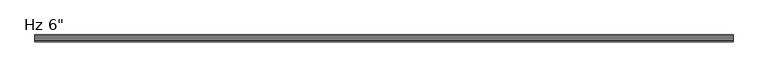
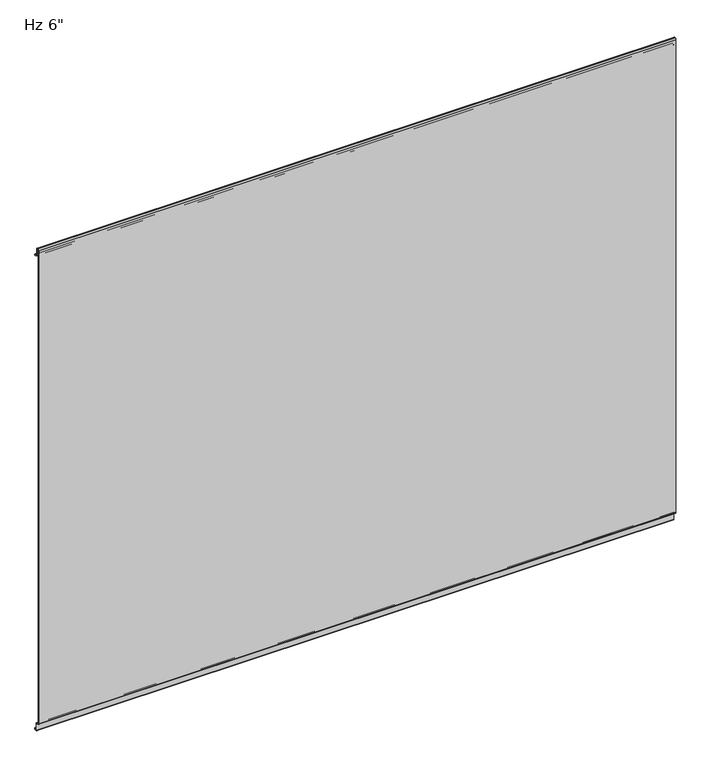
"""IFC4 building model written with IfcOpenShell, lengths in millimetres: plate geometry."""

from ifc_helpers import new_model, si_unit, frame, origin, place, context, project, spatial, polyline, circle_curve, source, transform, mapped, element, save
from ifc_brep_helpers import plane_surface, cylinder_surface, revolved_surface, advanced_brep


def plate_ad2471ad(model_context):
    return source(origin(), model_context, "Body", "AdvancedBrep", [
        advanced_brep(
        [(-730.0, -149.4223811, 3.8501063), (-730.0, -147.1308685, 3.8501063), (-730.0, -143.1535232, -0.1272391), (-730.0, -143.1535232, -15.7237514), (-730.0, -142.565666, -16.3116086), (-730.0, -139.4941346, -16.3116086), (-730.0, -138.9062635, -15.7237374), (-730.0, -138.9062635, -13.3687064), (-730.0, -137.9062599, -13.3687064), (-730.0, -137.9062599, -15.7237419), (-730.0, -139.4941364, -17.3116185), (-730.0, -142.5656851, -17.3116185), (-730.0, -144.1535616, -15.7237419), (-730.0, -144.1535616, -0.1273159), (-730.0, -147.1308302, 2.8499526), (-730.0, -149.422714, 2.8499526), (-730.0, -152.3999825, 5.8272211), (-730.0, -152.4, 1150.8100652), (-730.0, -149.4227315, 1153.7873337), (-730.0, -148.3806329, 1153.7873337), (-730.0, -145.4033644, 1150.8100652), (-730.0, -145.4033644, 1136.6216801), (-730.0, -143.8154878, 1135.0338036), (-730.0, -139.4950697, 1135.0338036), (-730.0, -137.9066023, 1133.3929042), (-730.0, -137.9066023, 1131.0482432), (-730.0, -138.9060472, 1131.0482432), (-730.0, -138.9060472, 1133.4253599), (-730.0, -139.4950842, 1134.0338971), (-730.0, -143.8153166, 1134.0338971), (-730.0, -146.4030166, 1136.6215971), (-730.0, -146.4030166, 1150.8107568), (-730.0, -148.380978, 1152.7887182), (-730.0, -149.42341, 1152.7887182), (-730.0, -151.3992912, 1150.812837), (-730.0, -151.3992912, 5.8270163), (730.0, -149.4223811, 3.8501063), (730.0, -151.3992912, 5.8270163), (730.0, -151.3992912, 1150.812837), (730.0, -149.42341, 1152.7887182), (730.0, -148.380978, 1152.7887182), (730.0, -146.4030166, 1150.8107568), (730.0, -146.4030166, 1136.6215971), (730.0, -143.8153166, 1134.0338971), (730.0, -139.4950842, 1134.0338971), (730.0, -138.9060472, 1133.4253599), (730.0, -138.9060472, 1131.0482432), (730.0, -137.9066023, 1131.0482432), (730.0, -137.9066023, 1133.3929042), (730.0, -139.4950697, 1135.0338036), (730.0, -143.8154878, 1135.0338036), (730.0, -145.4033644, 1136.6216801), (730.0, -145.4033644, 1150.8100652), (730.0, -148.3806329, 1153.7873337), (730.0, -149.4227315, 1153.7873337), (730.0, -152.4, 1150.8100652), (730.0, -152.4, 5.8272211), (730.0, -149.422714, 2.8499526), (730.0, -147.1308302, 2.8499526), (730.0, -144.1535616, -0.1273159), (730.0, -144.1535616, -15.7237419), (730.0, -142.5656851, -17.3116185), (730.0, -139.4941364, -17.3116185), (730.0, -137.9062599, -15.7237419), (730.0, -137.9062599, -13.3687064), (730.0, -138.9062635, -13.3687064), (730.0, -138.9062635, -15.7237374), (730.0, -139.4941346, -16.3116086), (730.0, -142.565666, -16.3116086), (730.0, -143.1535232, -15.7237514), (730.0, -143.1535232, -0.1272391), (730.0, -147.1308685, 3.8501063)],
        [
            (0, 1),
            (1, 2, circle_curve(frame((-730.0, -147.1308685, -0.1272391), z_axis=(-1.0, 0.0, 0.0), x_axis=(0.0, 0.0, -1.0)), 3.9773454)),
            (2, 3),
            (3, 4, circle_curve(frame((-730.0, -142.565666, -15.7237514), z_axis=(1.0, 0.0, 0.0), x_axis=(0.0, 0.0, -1.0)), 0.5878572)),
            (4, 5),
            (5, 6, circle_curve(frame((-730.0, -139.4941346, -15.7237374), z_axis=(1.0, 0.0, 0.0), x_axis=(0.0, 0.0, -1.0)), 0.5878711)),
            (6, 7),
            (7, 8),
            (8, 9),
            (9, 10, circle_curve(frame((-730.0, -139.4941364, -15.7237419), z_axis=(-1.0, 0.0, 0.0), x_axis=(0.0, 0.0, -1.0)), 1.5878765)),
            (10, 11),
            (11, 12, circle_curve(frame((-730.0, -142.5656851, -15.7237419), z_axis=(-1.0, 0.0, 0.0), x_axis=(0.0, 0.0, -1.0)), 1.5878765)),
            (12, 13),
            (13, 14, circle_curve(frame((-730.0, -147.1308302, -0.1273159), z_axis=(1.0, 0.0, 0.0), x_axis=(0.0, 0.0, -1.0)), 2.9772685)),
            (14, 15),
            (15, 16, circle_curve(frame((-730.0, -149.422714, 5.8272211), z_axis=(-1.0, 0.0, 0.0), x_axis=(0.0, 0.0, -1.0)), 2.9772685)),
            (16, 17),
            (17, 18, circle_curve(frame((-730.0, -149.4227315, 1150.8100652), z_axis=(-1.0, 0.0, 0.0), x_axis=(0.0, 0.0, -1.0)), 2.9772685)),
            (18, 19),
            (19, 20, circle_curve(frame((-730.0, -148.3806329, 1150.8100652), z_axis=(-1.0, 0.0, 0.0), x_axis=(0.0, 0.0, -1.0)), 2.9772685)),
            (20, 21),
            (21, 22, circle_curve(frame((-730.0, -143.8154878, 1136.6216801), z_axis=(1.0, 0.0, 0.0), x_axis=(0.0, 0.0, -1.0)), 1.5878765)),
            (22, 23),
            (23, 24, circle_curve(frame((-730.0, -139.4950697, 1133.4444985), z_axis=(-1.0, 0.0, 0.0), x_axis=(0.0, 0.0, -1.0)), 1.5893051)),
            (24, 25),
            (25, 26),
            (26, 27),
            (27, 28, circle_curve(frame((-730.0, -139.4950842, 1133.4445477), z_axis=(1.0, 0.0, 0.0), x_axis=(0.0, 0.0, -1.0)), 0.5893495)),
            (28, 29),
            (29, 30, circle_curve(frame((-730.0, -143.8153166, 1136.6215971), z_axis=(-1.0, 0.0, 0.0), x_axis=(0.0, 0.0, -1.0)), 2.5877)),
            (30, 31),
            (31, 32, circle_curve(frame((-730.0, -148.380978, 1150.8107568), z_axis=(1.0, 0.0, 0.0), x_axis=(0.0, 0.0, -1.0)), 1.9779614)),
            (32, 33),
            (33, 34, circle_curve(frame((-730.0, -149.42341, 1150.812837), z_axis=(1.0, 0.0, 0.0), x_axis=(0.0, 0.0, -1.0)), 1.9758812)),
            (34, 35),
            (35, 0, circle_curve(frame((-730.0, -149.4223811, 5.8270163), z_axis=(1.0, 0.0, 0.0), x_axis=(0.0, 0.0, -1.0)), 1.9769101)),
            (36, 37, circle_curve(frame((730.0, -149.4223811, 5.8270163), z_axis=(-1.0, 0.0, 0.0), x_axis=(0.0, 0.0, -1.0)), 1.9769101)),
            (37, 38),
            (38, 39, circle_curve(frame((730.0, -149.42341, 1150.812837), z_axis=(-1.0, 0.0, 0.0), x_axis=(0.0, 0.0, -1.0)), 1.9758812)),
            (39, 40),
            (40, 41, circle_curve(frame((730.0, -148.380978, 1150.8107568), z_axis=(-1.0, 0.0, 0.0), x_axis=(0.0, 0.0, -1.0)), 1.9779614)),
            (41, 42),
            (42, 43, circle_curve(frame((730.0, -143.8153166, 1136.6215971), z_axis=(1.0, 0.0, 0.0), x_axis=(0.0, 0.0, -1.0)), 2.5877)),
            (43, 44),
            (44, 45, circle_curve(frame((730.0, -139.4950842, 1133.4445477), z_axis=(-1.0, 0.0, 0.0), x_axis=(0.0, 0.0, -1.0)), 0.5893495)),
            (45, 46),
            (46, 47),
            (47, 48),
            (48, 49, circle_curve(frame((730.0, -139.4950697, 1133.4444985), z_axis=(1.0, 0.0, 0.0), x_axis=(0.0, 0.0, -1.0)), 1.5893051)),
            (49, 50),
            (50, 51, circle_curve(frame((730.0, -143.8154878, 1136.6216801), z_axis=(-1.0, 0.0, 0.0), x_axis=(0.0, 0.0, -1.0)), 1.5878765)),
            (51, 52),
            (52, 53, circle_curve(frame((730.0, -148.3806329, 1150.8100652), z_axis=(1.0, 0.0, 0.0), x_axis=(0.0, 0.0, -1.0)), 2.9772685)),
            (53, 54),
            (54, 55, circle_curve(frame((730.0, -149.4227315, 1150.8100652), z_axis=(1.0, 0.0, 0.0), x_axis=(0.0, 0.0, -1.0)), 2.9772685)),
            (55, 56),
            (56, 57, circle_curve(frame((730.0, -149.422714, 5.8272211), z_axis=(1.0, 0.0, 0.0), x_axis=(0.0, 0.0, -1.0)), 2.9772685)),
            (57, 58),
            (58, 59, circle_curve(frame((730.0, -147.1308302, -0.1273159), z_axis=(-1.0, 0.0, 0.0), x_axis=(0.0, 0.0, -1.0)), 2.9772685)),
            (59, 60),
            (60, 61, circle_curve(frame((730.0, -142.5656851, -15.7237419), z_axis=(1.0, 0.0, 0.0), x_axis=(0.0, 0.0, -1.0)), 1.5878765)),
            (61, 62),
            (62, 63, circle_curve(frame((730.0, -139.4941364, -15.7237419), z_axis=(1.0, 0.0, 0.0), x_axis=(0.0, 0.0, -1.0)), 1.5878765)),
            (63, 64),
            (64, 65),
            (65, 66),
            (66, 67, circle_curve(frame((730.0, -139.4941346, -15.7237374), z_axis=(-1.0, 0.0, 0.0), x_axis=(0.0, 0.0, -1.0)), 0.5878711)),
            (67, 68),
            (68, 69, circle_curve(frame((730.0, -142.565666, -15.7237514), z_axis=(-1.0, 0.0, 0.0), x_axis=(0.0, 0.0, -1.0)), 0.5878572)),
            (69, 70),
            (70, 71, circle_curve(frame((730.0, -147.1308685, -0.1272391), z_axis=(1.0, 0.0, 0.0), x_axis=(0.0, 0.0, -1.0)), 3.9773454)),
            (71, 36),
            (35, 37),
            (36, 0),
            (34, 38),
            (33, 39),
            (32, 40),
            (31, 41),
            (30, 42),
            (29, 43),
            (28, 44),
            (27, 45),
            (26, 46),
            (25, 47),
            (24, 48),
            (23, 49),
            (22, 50),
            (21, 51),
            (20, 52),
            (19, 53),
            (18, 54),
            (17, 55),
            (16, 56),
            (15, 57),
            (14, 58),
            (13, 59),
            (12, 60),
            (11, 61),
            (10, 62),
            (9, 63),
            (8, 64),
            (7, 65),
            (6, 66),
            (5, 67),
            (4, 68),
            (3, 69),
            (2, 70),
            (1, 71),
        ],
        [
            plane_surface(frame((-730.0, -152.4, 576.2625), z_axis=(-1.0, 0.0, 0.0), x_axis=(0.0, -1.0, 0.0))),
            plane_surface(frame((730.0, -152.4, 576.2625), z_axis=(1.0, 0.0, 0.0), x_axis=(0.0, -1.0, 0.0))),
            revolved_surface(polyline([(730.0, -149.4223811, 3.8501062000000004), (-730.0, -149.4223811, 3.8501062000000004)]), (-730.0, -149.4223811, 5.8270163), (1.0, 0.0, 0.0)),
            plane_surface(frame((-730.0, -151.3992912, 5.8270163), z_axis=(0.0, 1.0, 0.0), x_axis=(1.0, 0.0, 0.0))),
            revolved_surface(polyline([(730.0, -149.42341, 1148.8369558), (-730.0, -149.42341, 1148.8369558)]), (-730.0, -149.42341, 1150.812837), (1.0, 0.0, 0.0)),
            plane_surface(frame((-730.0, -149.42341, 1152.7887182), z_axis=(0.0, 0.0, -1.0), x_axis=(1.0, 0.0, 0.0))),
            revolved_surface(polyline([(730.0, -148.380978, 1148.8327954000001), (-730.0, -148.380978, 1148.8327954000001)]), (-730.0, -148.380978, 1150.8107568), (1.0, 0.0, 0.0)),
            plane_surface(frame((-730.0, -146.4030166, 1150.8107568), z_axis=(0.0, -1.0, 0.0), x_axis=(1.0, 0.0, 0.0))),
            cylinder_surface(frame((-730.0, -143.8153166, 1136.6215971), z_axis=(-1.0, 0.0, 0.0), x_axis=(0.0, 0.0, -1.0)), 2.5877),
            plane_surface(frame((-730.0, -143.8153166, 1134.0338971), z_axis=(0.0, 0.0, -1.0), x_axis=(1.0, 0.0, 0.0))),
            revolved_surface(polyline([(730.0, -139.4950842, 1132.8551982), (-730.0, -139.4950842, 1132.8551982)]), (-730.0, -139.4950842, 1133.4445477), (1.0, 0.0, 0.0)),
            plane_surface(frame((-730.0, -138.9060472, 1133.4253599), z_axis=(0.0, -1.0, 0.0), x_axis=(1.0, 0.0, 0.0))),
            plane_surface(frame((-730.0, -138.9060472, 1131.0482432), z_axis=(0.0, 0.0, -1.0), x_axis=(1.0, 0.0, 0.0))),
            plane_surface(frame((-730.0, -137.9066023, 1131.0482432), z_axis=(0.0, 1.0, 0.0), x_axis=(1.0, 0.0, 0.0))),
            cylinder_surface(frame((-730.0, -139.4950697, 1133.4444985), z_axis=(-1.0, 0.0, 0.0), x_axis=(0.0, 0.0, -1.0)), 1.5893051),
            plane_surface(frame((-730.0, -139.4950697, 1135.0338036), z_axis=(0.0, 0.0, 1.0), x_axis=(1.0, 0.0, 0.0))),
            revolved_surface(polyline([(730.0, -143.8154878, 1135.0338036), (-730.0, -143.8154878, 1135.0338036)]), (-730.0, -143.8154878, 1136.6216801), (1.0, 0.0, 0.0)),
            plane_surface(frame((-730.0, -145.4033644, 1136.6216801), z_axis=(0.0, 1.0, 0.0), x_axis=(1.0, 0.0, 0.0))),
            cylinder_surface(frame((-730.0, -148.3806329, 1150.8100652), z_axis=(-1.0, 0.0, 0.0), x_axis=(0.0, 0.0, -1.0)), 2.9772685),
            plane_surface(frame((-730.0, -148.3806329, 1153.7873337), z_axis=(0.0, 0.0, 1.0), x_axis=(1.0, 0.0, 0.0))),
            cylinder_surface(frame((-730.0, -149.4227315, 1150.8100652), z_axis=(-1.0, 0.0, 0.0), x_axis=(0.0, 0.0, -1.0)), 2.9772685),
            plane_surface(frame((-730.0, -152.4, 1150.8100652), z_axis=(0.0, -1.0, 0.0), x_axis=(1.0, 0.0, 0.0))),
            cylinder_surface(frame((-730.0, -149.422714, 5.8272211), z_axis=(-1.0, 0.0, 0.0), x_axis=(0.0, 0.0, -1.0)), 2.9772685),
            plane_surface(frame((-730.0, -149.422714, 2.8499526), z_axis=(0.0, 0.0, -1.0), x_axis=(1.0, 0.0, 0.0))),
            revolved_surface(polyline([(730.0, -147.1308302, -3.1045844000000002), (-730.0, -147.1308302, -3.1045844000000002)]), (-730.0, -147.1308302, -0.1273159), (1.0, 0.0, 0.0)),
            plane_surface(frame((-730.0, -144.1535616, -0.1273159), z_axis=(0.0, -1.0, 0.0), x_axis=(1.0, 0.0, 0.0))),
            cylinder_surface(frame((-730.0, -142.5656851, -15.7237419), z_axis=(-1.0, 0.0, 0.0), x_axis=(0.0, 0.0, -1.0)), 1.5878765),
            plane_surface(frame((-730.0, -142.5656851, -17.3116185), z_axis=(0.0, 0.0, -1.0), x_axis=(1.0, 0.0, 0.0))),
            cylinder_surface(frame((-730.0, -139.4941364, -15.7237419), z_axis=(-1.0, 0.0, 0.0), x_axis=(0.0, 0.0, -1.0)), 1.5878765),
            plane_surface(frame((-730.0, -137.9062599, -15.7237419), z_axis=(0.0, 1.0, 0.0), x_axis=(1.0, 0.0, 0.0))),
            plane_surface(frame((-730.0, -137.9062599, -13.3687064), z_axis=(0.0, 0.0, 1.0), x_axis=(1.0, 0.0, 0.0))),
            plane_surface(frame((-730.0, -138.9062635, -13.3687064), z_axis=(0.0, -1.0, 0.0), x_axis=(1.0, 0.0, 0.0))),
            revolved_surface(polyline([(730.0, -139.4941346, -16.3116085), (-730.0, -139.4941346, -16.3116085)]), (-730.0, -139.4941346, -15.7237374), (1.0, 0.0, 0.0)),
            plane_surface(frame((-730.0, -139.4941346, -16.3116086), z_axis=(0.0, 0.0, 1.0), x_axis=(1.0, 0.0, 0.0))),
            revolved_surface(polyline([(730.0, -142.565666, -16.3116086), (-730.0, -142.565666, -16.3116086)]), (-730.0, -142.565666, -15.7237514), (1.0, 0.0, 0.0)),
            plane_surface(frame((-730.0, -143.1535232, -15.7237514), z_axis=(0.0, 1.0, 0.0), x_axis=(1.0, 0.0, 0.0))),
            cylinder_surface(frame((-730.0, -147.1308685, -0.1272391), z_axis=(-1.0, 0.0, 0.0), x_axis=(0.0, 0.0, -1.0)), 3.9773454),
            plane_surface(frame((-730.0, -147.1308685, 3.8501063), z_axis=(0.0, 0.0, 1.0), x_axis=(1.0, 0.0, 0.0))),
        ],
        [
            (0, [[1, 2, 3, 4, 5, 6, 7, 8, 9, 10, 11, 12, 13, 14, 15, 16, 17, 18, 19, 20, 21, 22, 23, 24, 25, 26, 27, 28, 29, 30, 31, 32, 33, 34, 35, 36]]),
            (1, [[37, 38, 39, 40, 41, 42, 43, 44, 45, 46, 47, 48, 49, 50, 51, 52, 53, 54, 55, 56, 57, 58, 59, 60, 61, 62, 63, 64, 65, 66, 67, 68, 69, 70, 71, 72]]),
            (2, [[73, -37, 74, -36]]),
            (3, [[75, -38, -73, -35]]),
            (4, [[76, -39, -75, -34]]),
            (5, [[77, -40, -76, -33]]),
            (6, [[78, -41, -77, -32]]),
            (7, [[79, -42, -78, -31]]),
            (8, [[80, -43, -79, -30]]),
            (9, [[81, -44, -80, -29]]),
            (10, [[82, -45, -81, -28]]),
            (11, [[83, -46, -82, -27]]),
            (12, [[84, -47, -83, -26]]),
            (13, [[85, -48, -84, -25]]),
            (14, [[86, -49, -85, -24]]),
            (15, [[87, -50, -86, -23]]),
            (16, [[88, -51, -87, -22]]),
            (17, [[89, -52, -88, -21]]),
            (18, [[90, -53, -89, -20]]),
            (19, [[91, -54, -90, -19]]),
            (20, [[92, -55, -91, -18]]),
            (21, [[93, -56, -92, -17]]),
            (22, [[94, -57, -93, -16]]),
            (23, [[95, -58, -94, -15]]),
            (24, [[96, -59, -95, -14]]),
            (25, [[97, -60, -96, -13]]),
            (26, [[98, -61, -97, -12]]),
            (27, [[99, -62, -98, -11]]),
            (28, [[100, -63, -99, -10]]),
            (29, [[101, -64, -100, -9]]),
            (30, [[102, -65, -101, -8]]),
            (31, [[103, -66, -102, -7]]),
            (32, [[104, -67, -103, -6]]),
            (33, [[105, -68, -104, -5]]),
            (34, [[106, -69, -105, -4]]),
            (35, [[107, -70, -106, -3]]),
            (36, [[108, -71, -107, -2]]),
            (37, [[-74, -72, -108, -1]]),
        ],
    ),
    ])


if __name__ == "__main__":
    model = new_model("IFC4")
    model_context = context("Model", 3, world=origin())
    ifc_project = project(units=[si_unit("LENGTHUNIT", "METRE", prefix="MILLI")], contexts=[model_context])
    site = spatial("IfcSite", under=ifc_project)
    building = spatial("IfcBuilding", under=site)
    placement = place(None, origin())
    plate_shape = plate_ad2471ad(model_context)
    element("IfcPlate", 1, ObjectType="KIP-SLI-FLI-R19-CP-Hz-FL_SL : Hz 6\"", at=placement, inside=building, context=model_context, shape_type="MappedRepresentation", body=[
        mapped(plate_shape, transform((0.0, 0.0, 0.0), x_axis=(1.0, 0.0, 0.0), y_axis=(0.0, 1.0, 0.0), z_axis=(0.0, 0.0, 1.0))),
    ])
    save(model, "model.ifc")
